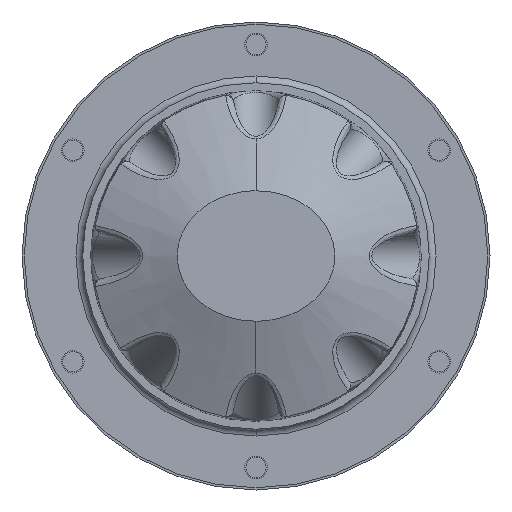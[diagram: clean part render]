
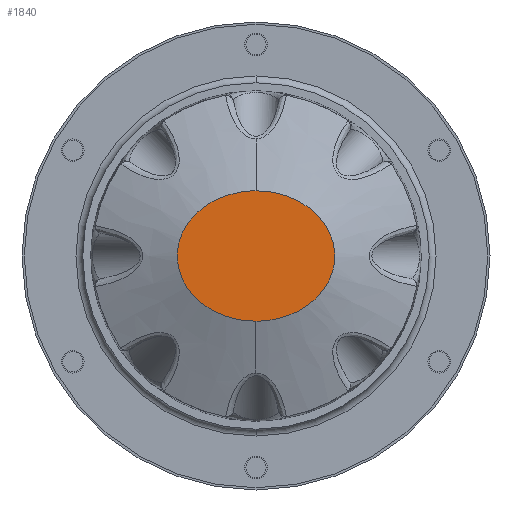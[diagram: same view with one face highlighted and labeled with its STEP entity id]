
A CAD part, front view. The second image highlights one B-rep face of the part: STEP entity #1840.
In plain terms, the highlighted planar face has unit normal (0, -1, 0).
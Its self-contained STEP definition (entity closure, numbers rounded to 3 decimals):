
#71 = ORIENTED_EDGE ( 'NONE', *, *, #1509, .F. ) ;
#196 = EDGE_LOOP ( 'NONE', ( #71, #2473 ) ) ;
#308 = CARTESIAN_POINT ( 'NONE',  ( 3.298, 0., 14.261 ) ) ;
#448 = CARTESIAN_POINT ( 'NONE',  ( -14.075, 0., -8.692 ) ) ;
#481 = CARTESIAN_POINT ( 'NONE',  ( -0.514, 0., 14.5 ) ) ;
#880 = VERTEX_POINT ( 'NONE', #3015 ) ;
#906 = CARTESIAN_POINT ( 'NONE',  ( 1.911, 0., -14.442 ) ) ;
#942 = CARTESIAN_POINT ( 'NONE',  ( 15.95, 0., 6.039 ) ) ;
#943 = CARTESIAN_POINT ( 'NONE',  ( -17.249, 0., 2.792 ) ) ;
#1015 = CARTESIAN_POINT ( 'NONE',  ( -11.684, 0., -10.8 ) ) ;
#1055 = CARTESIAN_POINT ( 'NONE',  ( -6.018, 0., 13.637 ) ) ;
#1410 = CARTESIAN_POINT ( 'NONE',  ( 16.517, 0., 4.852 ) ) ;
#1446 = CARTESIAN_POINT ( 'NONE',  ( 7.427, 0., 13.151 ) ) ;
#1509 = EDGE_CURVE ( 'NONE', #880, #7462, #2270, .T. ) ;
#1511 = CARTESIAN_POINT ( 'NONE',  ( 17.249, 0., -2.792 ) ) ;
#1653 = CARTESIAN_POINT ( 'NONE',  ( 0., 0., 14.5 ) ) ;
#1768 = DIRECTION ( 'NONE',  ( 0., 0., -1. ) ) ;
#1840 = ADVANCED_FACE ( 'NONE', ( #5565 ), #2272, .T. ) ;
#1969 = CARTESIAN_POINT ( 'NONE',  ( 15.153, 0., 7.291 ) ) ;
#2051 = CARTESIAN_POINT ( 'NONE',  ( 12.82, 0., -9.923 ) ) ;
#2081 = CARTESIAN_POINT ( 'NONE',  ( 4.763, 0., -13.963 ) ) ;
#2150 = CARTESIAN_POINT ( 'NONE',  ( -16.517, 0., 4.852 ) ) ;
#2184 = CARTESIAN_POINT ( 'NONE',  ( -7.427, 0., 13.151 ) ) ;
#2225 = CARTESIAN_POINT ( 'NONE',  ( -17.249, 0., -2.792 ) ) ;
#2270 = B_SPLINE_CURVE_WITH_KNOTS ( 'NONE', 3,
 ( #4306, #6584, #6652, #308, #3681, #6045, #1446, #4972, #7291, #3128, #3195, #2694, #1969, #942, #1410, #5517, #7224, #1511, #7141, #2630, #4832, #5551, #2051, #4341, #3264, #3823, #6080, #5410, #2081, #3230, #906, #4939, #7258 ),
 .UNSPECIFIED., .F., .F.,
 ( 4, 1, 1, 1, 1, 1, 1, 1, 1, 1, 1, 1, 1, 1, 1, 1, 1, 1, 1, 1, 1, 1, 1, 1, 1, 1, 1, 1, 1, 1, 4 ),
 ( 0., 0.016, 0.04, 0.048, 0.063, 0.08, 0.093, 0.121, 0.125, 0.136, 0.164, 0.176, 0.188, 0.206, 0.214, 0.25, 0.286, 0.294, 0.313, 0.324, 0.336, 0.364, 0.375, 0.379, 0.407, 0.42, 0.438, 0.452, 0.46, 0.48, 0.5 ),
 .UNSPECIFIED. ) ;
#2272 = PLANE ( 'NONE',  #5592 ) ;
#2473 = ORIENTED_EDGE ( 'NONE', *, *, #3414, .F. ) ;
#2630 = CARTESIAN_POINT ( 'NONE',  ( 15.949, 0., -6.039 ) ) ;
#2694 = CARTESIAN_POINT ( 'NONE',  ( 14.075, 0., 8.692 ) ) ;
#2765 = CARTESIAN_POINT ( 'NONE',  ( -17.716, 0., 0. ) ) ;
#2838 = CARTESIAN_POINT ( 'NONE',  ( -6.016, 0., -13.638 ) ) ;
#3015 = CARTESIAN_POINT ( 'NONE',  ( 0., 0., 14.5 ) ) ;
#3128 = CARTESIAN_POINT ( 'NONE',  ( 11.683, 0., 10.801 ) ) ;
#3195 = CARTESIAN_POINT ( 'NONE',  ( 12.819, 0., 9.923 ) ) ;
#3230 = CARTESIAN_POINT ( 'NONE',  ( 3.421, 0., -14.236 ) ) ;
#3264 = CARTESIAN_POINT ( 'NONE',  ( 10.5, 0., -11.634 ) ) ;
#3342 = CARTESIAN_POINT ( 'NONE',  ( -15.153, 0., -7.291 ) ) ;
#3378 = CARTESIAN_POINT ( 'NONE',  ( -4.763, 0., 13.963 ) ) ;
#3410 = CARTESIAN_POINT ( 'NONE',  ( -9.196, 0., 12.381 ) ) ;
#3414 = EDGE_CURVE ( 'NONE', #7462, #880, #6399, .T. ) ;
#3681 = CARTESIAN_POINT ( 'NONE',  ( 4.763, 0., 13.963 ) ) ;
#3823 = CARTESIAN_POINT ( 'NONE',  ( 9.195, 0., -12.381 ) ) ;
#3893 = CARTESIAN_POINT ( 'NONE',  ( -3.421, 0., -14.236 ) ) ;
#3997 = CARTESIAN_POINT ( 'NONE',  ( -7.425, 0., -13.151 ) ) ;
#4306 = CARTESIAN_POINT ( 'NONE',  ( 0., 0., 14.5 ) ) ;
#4341 = CARTESIAN_POINT ( 'NONE',  ( 11.684, 0., -10.8 ) ) ;
#4413 = CARTESIAN_POINT ( 'NONE',  ( -0.637, 0., -14.499 ) ) ;
#4444 = CARTESIAN_POINT ( 'NONE',  ( -3.298, 0., 14.261 ) ) ;
#4477 = CARTESIAN_POINT ( 'NONE',  ( -4.763, 0., -13.963 ) ) ;
#4521 = CARTESIAN_POINT ( 'NONE',  ( 0., 0., -14.499 ) ) ;
#4556 = CARTESIAN_POINT ( 'NONE',  ( -11.683, 0., 10.801 ) ) ;
#4832 = CARTESIAN_POINT ( 'NONE',  ( 15.153, 0., -7.291 ) ) ;
#4939 = CARTESIAN_POINT ( 'NONE',  ( 0.637, 0., -14.499 ) ) ;
#4972 = CARTESIAN_POINT ( 'NONE',  ( 9.196, 0., 12.381 ) ) ;
#4974 = CARTESIAN_POINT ( 'NONE',  ( 0., 0., -14.499 ) ) ;
#5042 = CARTESIAN_POINT ( 'NONE',  ( -15.153, 0., 7.291 ) ) ;
#5079 = CARTESIAN_POINT ( 'NONE',  ( -12.82, 0., -9.923 ) ) ;
#5125 = CARTESIAN_POINT ( 'NONE',  ( -1.911, 0., -14.442 ) ) ;
#5410 = CARTESIAN_POINT ( 'NONE',  ( 6.016, 0., -13.638 ) ) ;
#5461 = DIRECTION ( 'NONE',  ( 0., -1., 0. ) ) ;
#5517 = CARTESIAN_POINT ( 'NONE',  ( 17.249, 0., 2.792 ) ) ;
#5551 = CARTESIAN_POINT ( 'NONE',  ( 14.075, 0., -8.692 ) ) ;
#5565 = FACE_OUTER_BOUND ( 'NONE', #196, .T. ) ;
#5592 = AXIS2_PLACEMENT_3D ( 'NONE', #7310, #5461, #1768 ) ;
#5627 = CARTESIAN_POINT ( 'NONE',  ( -10.5, 0., -11.634 ) ) ;
#5662 = CARTESIAN_POINT ( 'NONE',  ( -1.785, 0., 14.454 ) ) ;
#6045 = CARTESIAN_POINT ( 'NONE',  ( 6.018, 0., 13.637 ) ) ;
#6080 = CARTESIAN_POINT ( 'NONE',  ( 7.425, 0., -13.151 ) ) ;
#6151 = CARTESIAN_POINT ( 'NONE',  ( -12.819, 0., 9.923 ) ) ;
#6187 = CARTESIAN_POINT ( 'NONE',  ( -9.195, 0., -12.381 ) ) ;
#6399 = B_SPLINE_CURVE_WITH_KNOTS ( 'NONE', 3,
 ( #4521, #4413, #5125, #3893, #4477, #2838, #3997, #6187, #5627, #1015, #5079, #448, #3342, #7328, #7395, #2225, #2765, #943, #2150, #6828, #5042, #6793, #6151, #4556, #7362, #3410, #2184, #1055, #3378, #4444, #5662, #481, #1653 ),
 .UNSPECIFIED., .F., .F.,
 ( 4, 1, 1, 1, 1, 1, 1, 1, 1, 1, 1, 1, 1, 1, 1, 1, 1, 1, 1, 1, 1, 1, 1, 1, 1, 1, 1, 1, 1, 1, 4 ),
 ( 0.5, 0.52, 0.54, 0.548, 0.563, 0.58, 0.593, 0.621, 0.625, 0.636, 0.664, 0.676, 0.688, 0.706, 0.714, 0.75, 0.786, 0.794, 0.813, 0.824, 0.836, 0.864, 0.875, 0.879, 0.907, 0.92, 0.938, 0.952, 0.96, 0.984, 1. ),
 .UNSPECIFIED. ) ;
#6584 = CARTESIAN_POINT ( 'NONE',  ( 0.514, 0., 14.5 ) ) ;
#6652 = CARTESIAN_POINT ( 'NONE',  ( 1.785, 0., 14.454 ) ) ;
#6793 = CARTESIAN_POINT ( 'NONE',  ( -14.075, 0., 8.692 ) ) ;
#6828 = CARTESIAN_POINT ( 'NONE',  ( -15.95, 0., 6.039 ) ) ;
#7141 = CARTESIAN_POINT ( 'NONE',  ( 16.516, 0., -4.852 ) ) ;
#7224 = CARTESIAN_POINT ( 'NONE',  ( 17.716, 0., 0. ) ) ;
#7258 = CARTESIAN_POINT ( 'NONE',  ( 0., 0., -14.499 ) ) ;
#7291 = CARTESIAN_POINT ( 'NONE',  ( 10.5, 0., 11.634 ) ) ;
#7310 = CARTESIAN_POINT ( 'NONE',  ( 0., 0., 14.5 ) ) ;
#7328 = CARTESIAN_POINT ( 'NONE',  ( -15.949, 0., -6.039 ) ) ;
#7362 = CARTESIAN_POINT ( 'NONE',  ( -10.5, 0., 11.634 ) ) ;
#7395 = CARTESIAN_POINT ( 'NONE',  ( -16.516, 0., -4.852 ) ) ;
#7462 = VERTEX_POINT ( 'NONE', #4974 ) ;
